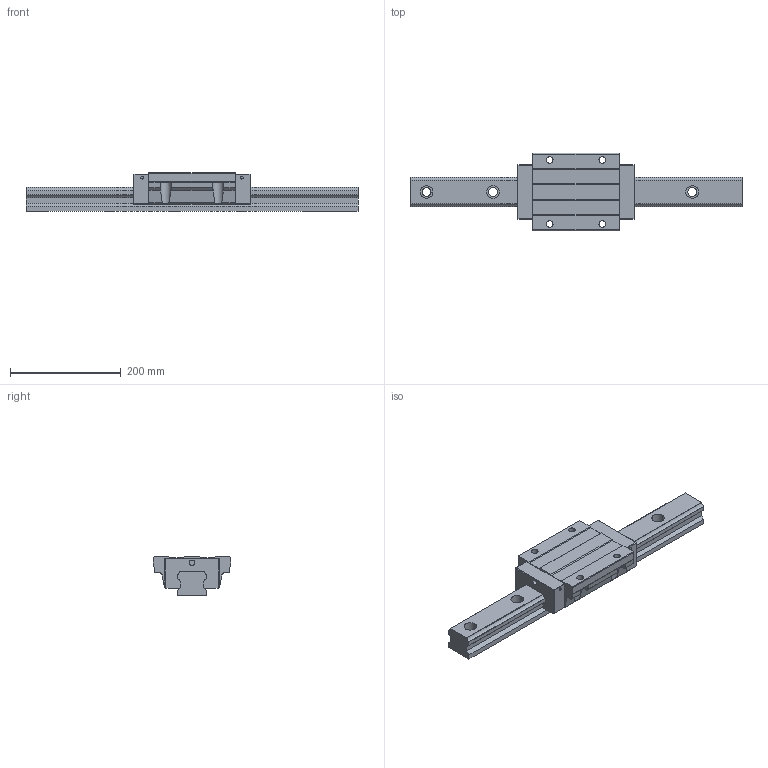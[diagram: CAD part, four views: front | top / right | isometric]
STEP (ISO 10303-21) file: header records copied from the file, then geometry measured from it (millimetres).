
FILE_DESCRIPTION (( 'STEP AP203' ), '1' );
FILE_NAME ('TRH55FE-ZN.STEP', '2024-05-14T09:08:42', ( '' ), ( '' ), 'SwSTEP 2.0', 'SolidWorks 2022', '' );
FILE_SCHEMA (( 'CONFIG_CONTROL_DESIGN' ));
Length unit declared in the file: millimetre
Products named in the file (1): TRH55FE-ZN
Bounding box: 600 x 140 x 70 mm (x, y, z)
Volume: 2141524 mm3; surface area: 242940.9 mm2
Topology: 2 solids, 2 shells, 219 faces, 596 edges, 388 vertices
Faces by surface type: plane 113, cylinder 102, sphere 4
Entity records: 7187 total; most frequent: CARTESIAN_POINT 1440, DIRECTION 1202, ORIENTED_EDGE 1184, EDGE_CURVE 592, AXIS2_PLACEMENT_3D 416, VERTEX_POINT 388, LINE 370, VECTOR 370
